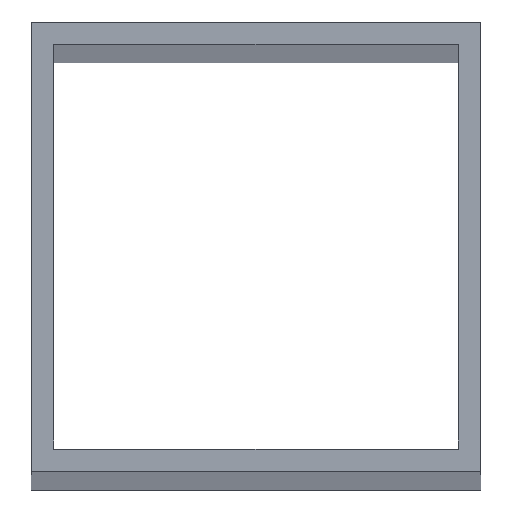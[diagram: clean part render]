
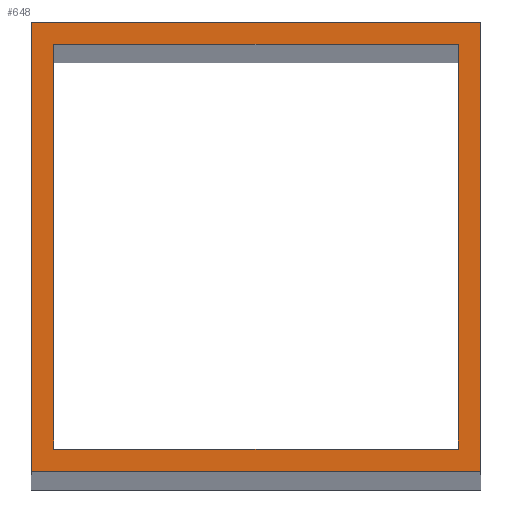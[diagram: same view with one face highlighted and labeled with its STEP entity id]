
A CAD part, top view. The second image highlights one B-rep face of the part: STEP entity #648.
In plain terms, the highlighted planar face has unit normal (0, 0, 1).
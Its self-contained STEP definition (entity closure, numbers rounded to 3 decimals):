
#24 = VERTEX_POINT('',#25);
#25 = CARTESIAN_POINT('',(-40.,-40.,1888.));
#32 = PLANE('',#33);
#33 = AXIS2_PLACEMENT_3D('',#34,#35,#36);
#34 = CARTESIAN_POINT('',(-40.,-40.,0.));
#35 = DIRECTION('',(0.,1.,0.));
#36 = DIRECTION('',(1.,0.,0.));
#44 = PLANE('',#45);
#45 = AXIS2_PLACEMENT_3D('',#46,#47,#48);
#46 = CARTESIAN_POINT('',(-40.,40.,0.));
#47 = DIRECTION('',(1.,0.,-0.));
#48 = DIRECTION('',(0.,-1.,0.));
#56 = EDGE_CURVE('',#24,#57,#59,.T.);
#57 = VERTEX_POINT('',#58);
#58 = CARTESIAN_POINT('',(40.,-40.,1888.));
#59 = SURFACE_CURVE('',#60,(#64,#71),.PCURVE_S1.);
#60 = LINE('',#61,#62);
#61 = CARTESIAN_POINT('',(-40.,-40.,1888.));
#62 = VECTOR('',#63,1.);
#63 = DIRECTION('',(1.,0.,0.));
#64 = PCURVE('',#32,#65);
#65 = DEFINITIONAL_REPRESENTATION('',(#66),#70);
#66 = LINE('',#67,#68);
#67 = CARTESIAN_POINT('',(0.,-1888.));
#68 = VECTOR('',#69,1.);
#69 = DIRECTION('',(1.,0.));
#70 = ( GEOMETRIC_REPRESENTATION_CONTEXT(2) 
PARAMETRIC_REPRESENTATION_CONTEXT() REPRESENTATION_CONTEXT('2D SPACE',''
  ) );
#71 = PCURVE('',#72,#77);
#72 = PLANE('',#73);
#73 = AXIS2_PLACEMENT_3D('',#74,#75,#76);
#74 = CARTESIAN_POINT('',(0.,0.,1888.));
#75 = DIRECTION('',(0.,0.,1.));
#76 = DIRECTION('',(1.,0.,-0.));
#77 = DEFINITIONAL_REPRESENTATION('',(#78),#82);
#78 = LINE('',#79,#80);
#79 = CARTESIAN_POINT('',(-40.,-40.));
#80 = VECTOR('',#81,1.);
#81 = DIRECTION('',(1.,0.));
#82 = ( GEOMETRIC_REPRESENTATION_CONTEXT(2) 
PARAMETRIC_REPRESENTATION_CONTEXT() REPRESENTATION_CONTEXT('2D SPACE',''
  ) );
#100 = PLANE('',#101);
#101 = AXIS2_PLACEMENT_3D('',#102,#103,#104);
#102 = CARTESIAN_POINT('',(40.,-40.,0.));
#103 = DIRECTION('',(-1.,0.,0.));
#104 = DIRECTION('',(0.,1.,0.));
#142 = EDGE_CURVE('',#57,#143,#145,.T.);
#143 = VERTEX_POINT('',#144);
#144 = CARTESIAN_POINT('',(40.,40.,1888.));
#145 = SURFACE_CURVE('',#146,(#150,#157),.PCURVE_S1.);
#146 = LINE('',#147,#148);
#147 = CARTESIAN_POINT('',(40.,-40.,1888.));
#148 = VECTOR('',#149,1.);
#149 = DIRECTION('',(0.,1.,0.));
#150 = PCURVE('',#100,#151);
#151 = DEFINITIONAL_REPRESENTATION('',(#152),#156);
#152 = LINE('',#153,#154);
#153 = CARTESIAN_POINT('',(0.,-1888.));
#154 = VECTOR('',#155,1.);
#155 = DIRECTION('',(1.,0.));
#156 = ( GEOMETRIC_REPRESENTATION_CONTEXT(2) 
PARAMETRIC_REPRESENTATION_CONTEXT() REPRESENTATION_CONTEXT('2D SPACE',''
  ) );
#157 = PCURVE('',#72,#158);
#158 = DEFINITIONAL_REPRESENTATION('',(#159),#163);
#159 = LINE('',#160,#161);
#160 = CARTESIAN_POINT('',(40.,-40.));
#161 = VECTOR('',#162,1.);
#162 = DIRECTION('',(0.,1.));
#163 = ( GEOMETRIC_REPRESENTATION_CONTEXT(2) 
PARAMETRIC_REPRESENTATION_CONTEXT() REPRESENTATION_CONTEXT('2D SPACE',''
  ) );
#181 = PLANE('',#182);
#182 = AXIS2_PLACEMENT_3D('',#183,#184,#185);
#183 = CARTESIAN_POINT('',(40.,40.,0.));
#184 = DIRECTION('',(0.,-1.,0.));
#185 = DIRECTION('',(-1.,0.,0.));
#218 = EDGE_CURVE('',#143,#219,#221,.T.);
#219 = VERTEX_POINT('',#220);
#220 = CARTESIAN_POINT('',(-40.,40.,1888.));
#221 = SURFACE_CURVE('',#222,(#226,#233),.PCURVE_S1.);
#222 = LINE('',#223,#224);
#223 = CARTESIAN_POINT('',(40.,40.,1888.));
#224 = VECTOR('',#225,1.);
#225 = DIRECTION('',(-1.,0.,0.));
#226 = PCURVE('',#181,#227);
#227 = DEFINITIONAL_REPRESENTATION('',(#228),#232);
#228 = LINE('',#229,#230);
#229 = CARTESIAN_POINT('',(0.,-1888.));
#230 = VECTOR('',#231,1.);
#231 = DIRECTION('',(1.,0.));
#232 = ( GEOMETRIC_REPRESENTATION_CONTEXT(2) 
PARAMETRIC_REPRESENTATION_CONTEXT() REPRESENTATION_CONTEXT('2D SPACE',''
  ) );
#233 = PCURVE('',#72,#234);
#234 = DEFINITIONAL_REPRESENTATION('',(#235),#239);
#235 = LINE('',#236,#237);
#236 = CARTESIAN_POINT('',(40.,40.));
#237 = VECTOR('',#238,1.);
#238 = DIRECTION('',(-1.,0.));
#239 = ( GEOMETRIC_REPRESENTATION_CONTEXT(2) 
PARAMETRIC_REPRESENTATION_CONTEXT() REPRESENTATION_CONTEXT('2D SPACE',''
  ) );
#289 = EDGE_CURVE('',#219,#24,#290,.T.);
#290 = SURFACE_CURVE('',#291,(#295,#302),.PCURVE_S1.);
#291 = LINE('',#292,#293);
#292 = CARTESIAN_POINT('',(-40.,40.,1888.));
#293 = VECTOR('',#294,1.);
#294 = DIRECTION('',(0.,-1.,0.));
#295 = PCURVE('',#44,#296);
#296 = DEFINITIONAL_REPRESENTATION('',(#297),#301);
#297 = LINE('',#298,#299);
#298 = CARTESIAN_POINT('',(0.,-1888.));
#299 = VECTOR('',#300,1.);
#300 = DIRECTION('',(1.,0.));
#301 = ( GEOMETRIC_REPRESENTATION_CONTEXT(2) 
PARAMETRIC_REPRESENTATION_CONTEXT() REPRESENTATION_CONTEXT('2D SPACE',''
  ) );
#302 = PCURVE('',#72,#303);
#303 = DEFINITIONAL_REPRESENTATION('',(#304),#308);
#304 = LINE('',#305,#306);
#305 = CARTESIAN_POINT('',(-40.,40.));
#306 = VECTOR('',#307,1.);
#307 = DIRECTION('',(0.,-1.));
#308 = ( GEOMETRIC_REPRESENTATION_CONTEXT(2) 
PARAMETRIC_REPRESENTATION_CONTEXT() REPRESENTATION_CONTEXT('2D SPACE',''
  ) );
#338 = VERTEX_POINT('',#339);
#339 = CARTESIAN_POINT('',(-36.,-36.,1888.));
#346 = PLANE('',#347);
#347 = AXIS2_PLACEMENT_3D('',#348,#349,#350);
#348 = CARTESIAN_POINT('',(-36.,-36.,0.));
#349 = DIRECTION('',(0.,1.,0.));
#350 = DIRECTION('',(1.,0.,0.));
#358 = PLANE('',#359);
#359 = AXIS2_PLACEMENT_3D('',#360,#361,#362);
#360 = CARTESIAN_POINT('',(-36.,36.,0.));
#361 = DIRECTION('',(1.,0.,-0.));
#362 = DIRECTION('',(0.,-1.,0.));
#370 = EDGE_CURVE('',#338,#371,#373,.T.);
#371 = VERTEX_POINT('',#372);
#372 = CARTESIAN_POINT('',(36.,-36.,1888.));
#373 = SURFACE_CURVE('',#374,(#378,#385),.PCURVE_S1.);
#374 = LINE('',#375,#376);
#375 = CARTESIAN_POINT('',(-36.,-36.,1888.));
#376 = VECTOR('',#377,1.);
#377 = DIRECTION('',(1.,0.,0.));
#378 = PCURVE('',#346,#379);
#379 = DEFINITIONAL_REPRESENTATION('',(#380),#384);
#380 = LINE('',#381,#382);
#381 = CARTESIAN_POINT('',(0.,-1888.));
#382 = VECTOR('',#383,1.);
#383 = DIRECTION('',(1.,0.));
#384 = ( GEOMETRIC_REPRESENTATION_CONTEXT(2) 
PARAMETRIC_REPRESENTATION_CONTEXT() REPRESENTATION_CONTEXT('2D SPACE',''
  ) );
#385 = PCURVE('',#72,#386);
#386 = DEFINITIONAL_REPRESENTATION('',(#387),#391);
#387 = LINE('',#388,#389);
#388 = CARTESIAN_POINT('',(-36.,-36.));
#389 = VECTOR('',#390,1.);
#390 = DIRECTION('',(1.,0.));
#391 = ( GEOMETRIC_REPRESENTATION_CONTEXT(2) 
PARAMETRIC_REPRESENTATION_CONTEXT() REPRESENTATION_CONTEXT('2D SPACE',''
  ) );
#409 = PLANE('',#410);
#410 = AXIS2_PLACEMENT_3D('',#411,#412,#413);
#411 = CARTESIAN_POINT('',(36.,-36.,0.));
#412 = DIRECTION('',(-1.,0.,0.));
#413 = DIRECTION('',(0.,1.,0.));
#446 = EDGE_CURVE('',#371,#447,#449,.T.);
#447 = VERTEX_POINT('',#448);
#448 = CARTESIAN_POINT('',(36.,36.,1888.));
#449 = SURFACE_CURVE('',#450,(#454,#461),.PCURVE_S1.);
#450 = LINE('',#451,#452);
#451 = CARTESIAN_POINT('',(36.,-36.,1888.));
#452 = VECTOR('',#453,1.);
#453 = DIRECTION('',(0.,1.,0.));
#454 = PCURVE('',#409,#455);
#455 = DEFINITIONAL_REPRESENTATION('',(#456),#460);
#456 = LINE('',#457,#458);
#457 = CARTESIAN_POINT('',(0.,-1888.));
#458 = VECTOR('',#459,1.);
#459 = DIRECTION('',(1.,0.));
#460 = ( GEOMETRIC_REPRESENTATION_CONTEXT(2) 
PARAMETRIC_REPRESENTATION_CONTEXT() REPRESENTATION_CONTEXT('2D SPACE',''
  ) );
#461 = PCURVE('',#72,#462);
#462 = DEFINITIONAL_REPRESENTATION('',(#463),#467);
#463 = LINE('',#464,#465);
#464 = CARTESIAN_POINT('',(36.,-36.));
#465 = VECTOR('',#466,1.);
#466 = DIRECTION('',(0.,1.));
#467 = ( GEOMETRIC_REPRESENTATION_CONTEXT(2) 
PARAMETRIC_REPRESENTATION_CONTEXT() REPRESENTATION_CONTEXT('2D SPACE',''
  ) );
#485 = PLANE('',#486);
#486 = AXIS2_PLACEMENT_3D('',#487,#488,#489);
#487 = CARTESIAN_POINT('',(36.,36.,0.));
#488 = DIRECTION('',(0.,-1.,0.));
#489 = DIRECTION('',(-1.,0.,0.));
#522 = EDGE_CURVE('',#447,#523,#525,.T.);
#523 = VERTEX_POINT('',#524);
#524 = CARTESIAN_POINT('',(-36.,36.,1888.));
#525 = SURFACE_CURVE('',#526,(#530,#537),.PCURVE_S1.);
#526 = LINE('',#527,#528);
#527 = CARTESIAN_POINT('',(36.,36.,1888.));
#528 = VECTOR('',#529,1.);
#529 = DIRECTION('',(-1.,0.,0.));
#530 = PCURVE('',#485,#531);
#531 = DEFINITIONAL_REPRESENTATION('',(#532),#536);
#532 = LINE('',#533,#534);
#533 = CARTESIAN_POINT('',(0.,-1888.));
#534 = VECTOR('',#535,1.);
#535 = DIRECTION('',(1.,0.));
#536 = ( GEOMETRIC_REPRESENTATION_CONTEXT(2) 
PARAMETRIC_REPRESENTATION_CONTEXT() REPRESENTATION_CONTEXT('2D SPACE',''
  ) );
#537 = PCURVE('',#72,#538);
#538 = DEFINITIONAL_REPRESENTATION('',(#539),#543);
#539 = LINE('',#540,#541);
#540 = CARTESIAN_POINT('',(36.,36.));
#541 = VECTOR('',#542,1.);
#542 = DIRECTION('',(-1.,0.));
#543 = ( GEOMETRIC_REPRESENTATION_CONTEXT(2) 
PARAMETRIC_REPRESENTATION_CONTEXT() REPRESENTATION_CONTEXT('2D SPACE',''
  ) );
#593 = EDGE_CURVE('',#523,#338,#594,.T.);
#594 = SURFACE_CURVE('',#595,(#599,#606),.PCURVE_S1.);
#595 = LINE('',#596,#597);
#596 = CARTESIAN_POINT('',(-36.,36.,1888.));
#597 = VECTOR('',#598,1.);
#598 = DIRECTION('',(0.,-1.,0.));
#599 = PCURVE('',#358,#600);
#600 = DEFINITIONAL_REPRESENTATION('',(#601),#605);
#601 = LINE('',#602,#603);
#602 = CARTESIAN_POINT('',(0.,-1888.));
#603 = VECTOR('',#604,1.);
#604 = DIRECTION('',(1.,0.));
#605 = ( GEOMETRIC_REPRESENTATION_CONTEXT(2) 
PARAMETRIC_REPRESENTATION_CONTEXT() REPRESENTATION_CONTEXT('2D SPACE',''
  ) );
#606 = PCURVE('',#72,#607);
#607 = DEFINITIONAL_REPRESENTATION('',(#608),#612);
#608 = LINE('',#609,#610);
#609 = CARTESIAN_POINT('',(-36.,36.));
#610 = VECTOR('',#611,1.);
#611 = DIRECTION('',(0.,-1.));
#612 = ( GEOMETRIC_REPRESENTATION_CONTEXT(2) 
PARAMETRIC_REPRESENTATION_CONTEXT() REPRESENTATION_CONTEXT('2D SPACE',''
  ) );
#648 = ADVANCED_FACE('',(#649,#655),#72,.T.);
#649 = FACE_BOUND('',#650,.T.);
#650 = EDGE_LOOP('',(#651,#652,#653,#654));
#651 = ORIENTED_EDGE('',*,*,#56,.T.);
#652 = ORIENTED_EDGE('',*,*,#142,.T.);
#653 = ORIENTED_EDGE('',*,*,#218,.T.);
#654 = ORIENTED_EDGE('',*,*,#289,.T.);
#655 = FACE_BOUND('',#656,.F.);
#656 = EDGE_LOOP('',(#657,#658,#659,#660));
#657 = ORIENTED_EDGE('',*,*,#370,.T.);
#658 = ORIENTED_EDGE('',*,*,#446,.T.);
#659 = ORIENTED_EDGE('',*,*,#522,.T.);
#660 = ORIENTED_EDGE('',*,*,#593,.T.);
